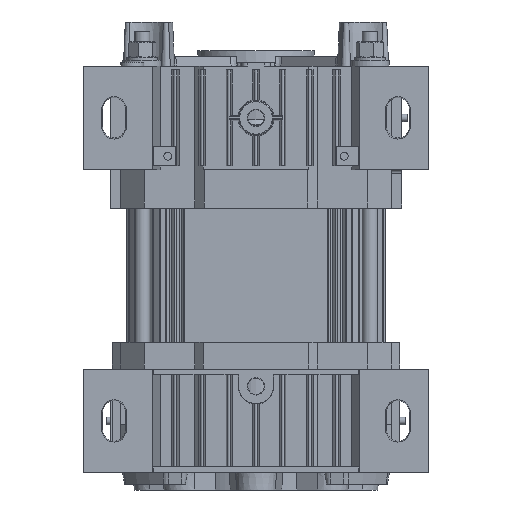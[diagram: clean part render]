
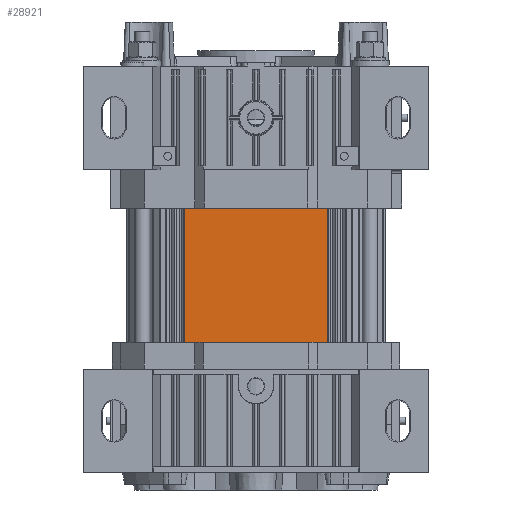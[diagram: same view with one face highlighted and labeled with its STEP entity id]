
A CAD part, front view. The second image highlights one B-rep face of the part: STEP entity #28921.
In plain terms, the highlighted planar face has unit normal (0, -1, 0).
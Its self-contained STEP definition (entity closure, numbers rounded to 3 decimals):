
#3188=LINE('',#49796,#5828);
#3424=LINE('',#50539,#6064);
#3425=LINE('',#50542,#6065);
#3426=LINE('',#50543,#6066);
#5828=VECTOR('',#39390,10.);
#6064=VECTOR('',#40144,10.);
#6065=VECTOR('',#40149,10.);
#6066=VECTOR('',#40150,10.);
#6982=PLANE('',#31852);
#8668=FACE_OUTER_BOUND('',#10363,.T.);
#10363=EDGE_LOOP('',(#26753,#26754,#26755,#26756));
#14171=VERTEX_POINT('',#49789);
#14174=VERTEX_POINT('',#49794);
#14421=VERTEX_POINT('',#50536);
#14422=VERTEX_POINT('',#50538);
#18254=EDGE_CURVE('',#14174,#14171,#3188,.T.);
#18625=EDGE_CURVE('',#14422,#14421,#3424,.T.);
#18627=EDGE_CURVE('',#14421,#14171,#3425,.T.);
#18628=EDGE_CURVE('',#14174,#14422,#3426,.T.);
#26753=ORIENTED_EDGE('',*,*,#18627,.T.);
#26754=ORIENTED_EDGE('',*,*,#18254,.F.);
#26755=ORIENTED_EDGE('',*,*,#18628,.T.);
#26756=ORIENTED_EDGE('',*,*,#18625,.T.);
#28921=ADVANCED_FACE('',(#8668),#6982,.T.);
#31852=AXIS2_PLACEMENT_3D('',#50541,#40147,#40148);
#39390=DIRECTION('',(0.,0.,1.));
#40144=DIRECTION('',(0.,0.,1.));
#40147=DIRECTION('center_axis',(0.,-1.,0.));
#40148=DIRECTION('ref_axis',(0.,0.,-1.));
#40149=DIRECTION('',(-1.,0.,0.));
#40150=DIRECTION('',(1.,0.,0.));
#49789=CARTESIAN_POINT('',(6506.45,-1976.3,80.));
#49794=CARTESIAN_POINT('',(6506.45,-1976.3,0.));
#49796=CARTESIAN_POINT('',(6506.45,-1976.3,0.));
#50536=CARTESIAN_POINT('',(6580.572,-1976.3,80.));
#50538=CARTESIAN_POINT('',(6580.572,-1976.3,0.));
#50539=CARTESIAN_POINT('',(6580.572,-1976.3,0.));
#50541=CARTESIAN_POINT('Origin',(6580.572,-1976.3,0.));
#50542=CARTESIAN_POINT('',(6506.45,-1976.3,80.));
#50543=CARTESIAN_POINT('',(6506.45,-1976.3,0.));
